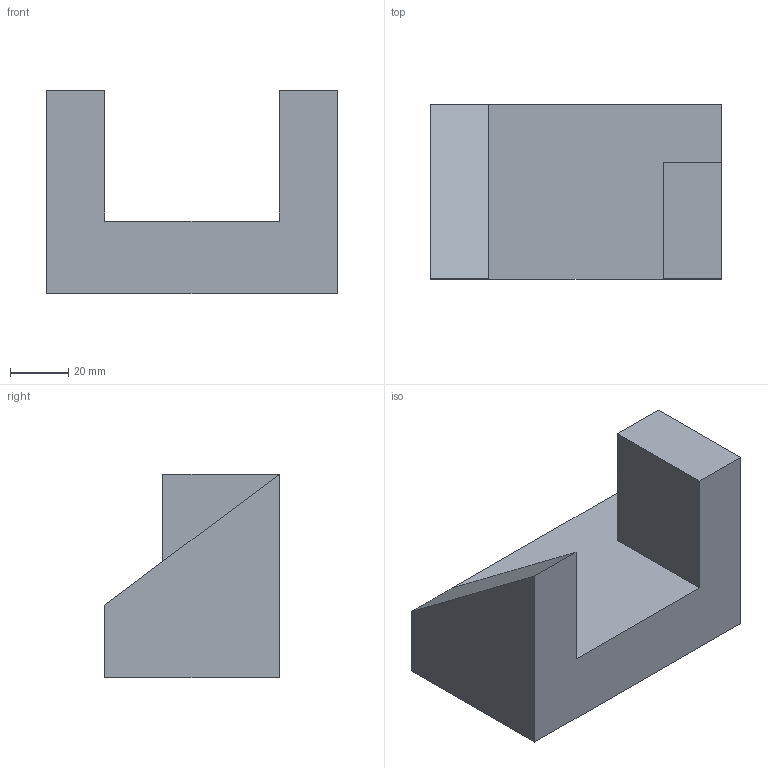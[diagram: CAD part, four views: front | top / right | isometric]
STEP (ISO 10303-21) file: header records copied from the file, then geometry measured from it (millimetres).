
FILE_DESCRIPTION(/* description */ (''),/* implementation_level */ '2;1');
FILE_NAME(/* time_stamp */ '2020-06-16T15:00:42+01:00',/* author */ ('DesignClass.co.uk'),/* originating_system */ 'Solidworks 2021',/* authorisation */ '');
FILE_SCHEMA (('AUTOMOTIVE_DESIGN { 1 0 10303 214 3 1 1 }'));
Length unit declared in the file: millimetre
Products named in the file (1): Task_1
Bounding box: 100 x 60 x 70 mm (x, y, z)
Volume: 213000 mm3; surface area: 29300 mm2
Topology: 1 solids, 1 shells, 11 faces, 26 edges, 17 vertices
Faces by surface type: plane 11
Entity records: 353 total; most frequent: CARTESIAN_POINT 55, ORIENTED_EDGE 52, DIRECTION 50, LINE 26, VECTOR 26, EDGE_CURVE 26, VERTEX_POINT 17, AXIS2_PLACEMENT_3D 12
